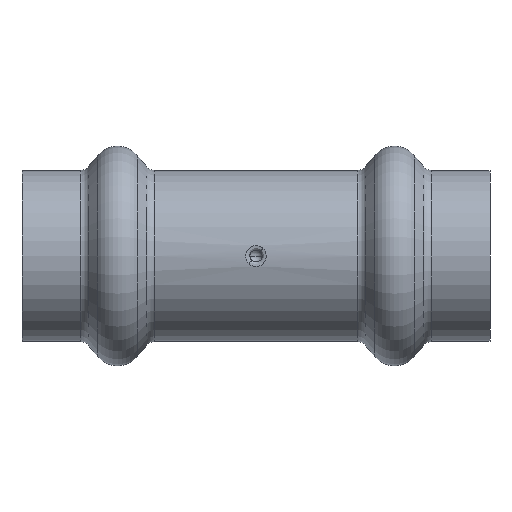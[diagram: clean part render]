
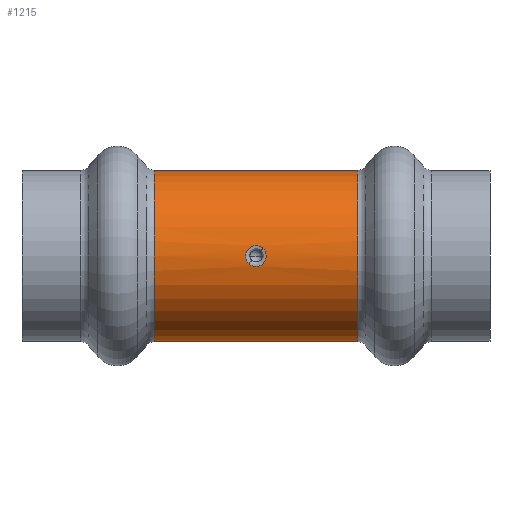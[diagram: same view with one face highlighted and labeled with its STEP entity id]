
A CAD part, front view. The second image highlights one B-rep face of the part: STEP entity #1215.
In plain terms, the highlighted cylindrical face has radius 8.95 mm (diameter 17.9 mm), a partial arc.
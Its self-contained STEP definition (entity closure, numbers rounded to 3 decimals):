
#73 = CARTESIAN_POINT ( 'NONE',  ( 0.88, -8.928, -0.634 ) ) ;
#81 = CARTESIAN_POINT ( 'NONE',  ( 0.691, -8.911, -0.842 ) ) ;
#134 = AXIS2_PLACEMENT_3D ( 'NONE', #1830, #1403, #2165 ) ;
#146 = CARTESIAN_POINT ( 'NONE',  ( -0.182, -8.884, 1.082 ) ) ;
#220 = CARTESIAN_POINT ( 'NONE',  ( 0.73, -8.915, 0.794 ) ) ;
#238 = CARTESIAN_POINT ( 'NONE',  ( -16.83, 0., 8.95 ) ) ;
#246 = CARTESIAN_POINT ( 'NONE',  ( 10.647, 0., 0. ) ) ;
#254 = CARTESIAN_POINT ( 'NONE',  ( 0.575, -8.902, -0.928 ) ) ;
#259 = ORIENTED_EDGE ( 'NONE', *, *, #2125, .F. ) ;
#260 = CARTESIAN_POINT ( 'NONE',  ( 0.32, -8.889, -1.048 ) ) ;
#270 = CARTESIAN_POINT ( 'NONE',  ( 0.18, -8.884, -1.082 ) ) ;
#275 = EDGE_CURVE ( 'NONE', #2179, #1813, #1756, .T. ) ;
#311 = CYLINDRICAL_SURFACE ( 'NONE', #134, 8.95 ) ;
#339 = B_SPLINE_CURVE_WITH_KNOTS ( 'NONE', 3,
 ( #1262, #624, #1248, #1256, #1304, #2092, #489, #2076, #2143, #1831, #146, #606, #635, #528, #1073, #474 ),
 .UNSPECIFIED., .F., .F.,
 ( 4, 2, 2, 2, 2, 2, 2, 4 ),
 ( 0.007, 0.008, 0.008, 0.008, 0.009, 0.009, 0.01, 0.01 ),
 .UNSPECIFIED. ) ;
#346 = EDGE_CURVE ( 'NONE', #1998, #2179, #1931, .T. ) ;
#368 = FACE_BOUND ( 'NONE', #1261, .T. ) ;
#438 = CARTESIAN_POINT ( 'NONE',  ( -0.102, -8.883, -1.092 ) ) ;
#449 = CARTESIAN_POINT ( 'NONE',  ( 1.072, -8.951, -0.102 ) ) ;
#474 = CARTESIAN_POINT ( 'NONE',  ( 0.73, -8.915, 0.794 ) ) ;
#489 = CARTESIAN_POINT ( 'NONE',  ( -0.881, -8.928, 0.632 ) ) ;
#528 = CARTESIAN_POINT ( 'NONE',  ( 0.507, -8.898, 0.969 ) ) ;
#556 = VECTOR ( 'NONE', #1125, 1000. ) ;
#586 = CARTESIAN_POINT ( 'NONE',  ( 0.73, -8.915, 0.794 ) ) ;
#606 = CARTESIAN_POINT ( 'NONE',  ( 0.102, -8.883, 1.092 ) ) ;
#624 = CARTESIAN_POINT ( 'NONE',  ( -0.935, -8.932, -0.599 ) ) ;
#628 = CARTESIAN_POINT ( 'NONE',  ( -0.244, -8.886, -1.069 ) ) ;
#635 = CARTESIAN_POINT ( 'NONE',  ( 0.243, -8.886, 1.069 ) ) ;
#639 = CARTESIAN_POINT ( 'NONE',  ( 1.062, -8.949, 0.182 ) ) ;
#685 = CIRCLE ( 'NONE', #1288, 8.95 ) ;
#727 = DIRECTION ( 'NONE',  ( -1., 0., 0. ) ) ;
#794 = CARTESIAN_POINT ( 'NONE',  ( -0.508, -8.898, -0.968 ) ) ;
#805 = CARTESIAN_POINT ( 'NONE',  ( -0.628, -8.906, -0.892 ) ) ;
#981 = CARTESIAN_POINT ( 'NONE',  ( -0.73, -8.915, -0.794 ) ) ;
#992 = VERTEX_POINT ( 'NONE', #1407 ) ;
#1036 = EDGE_CURVE ( 'NONE', #992, #1383, #339, .T. ) ;
#1073 = CARTESIAN_POINT ( 'NONE',  ( 0.628, -8.906, 0.892 ) ) ;
#1125 = DIRECTION ( 'NONE',  ( -1., 0., 0. ) ) ;
#1129 = CARTESIAN_POINT ( 'NONE',  ( 0.915, -8.932, 0.579 ) ) ;
#1215 = ADVANCED_FACE ( 'NONE', ( #1721, #368 ), #311, .T. ) ;
#1224 = DIRECTION ( 'NONE',  ( 0., 0., -1. ) ) ;
#1236 = DIRECTION ( 'NONE',  ( 1., 0., 0. ) ) ;
#1242 = ORIENTED_EDGE ( 'NONE', *, *, #1036, .T. ) ;
#1245 = CARTESIAN_POINT ( 'NONE',  ( -10.647, 0., 0. ) ) ;
#1248 = CARTESIAN_POINT ( 'NONE',  ( -1.057, -8.949, -0.322 ) ) ;
#1256 = CARTESIAN_POINT ( 'NONE',  ( -1.072, -8.951, 0.101 ) ) ;
#1261 = EDGE_LOOP ( 'NONE', ( #1242, #1989 ) ) ;
#1262 = CARTESIAN_POINT ( 'NONE',  ( -0.73, -8.915, -0.794 ) ) ;
#1288 = AXIS2_PLACEMENT_3D ( 'NONE', #1245, #1236, #1224 ) ;
#1299 = CARTESIAN_POINT ( 'NONE',  ( 0.832, -8.923, 0.697 ) ) ;
#1300 = ORIENTED_EDGE ( 'NONE', *, *, #275, .T. ) ;
#1304 = CARTESIAN_POINT ( 'NONE',  ( -1.05, -8.948, 0.244 ) ) ;
#1323 = VECTOR ( 'NONE', #727, 1000. ) ;
#1375 = VERTEX_POINT ( 'NONE', #2065 ) ;
#1381 = EDGE_CURVE ( 'NONE', #1813, #1375, #685, .T. ) ;
#1383 = VERTEX_POINT ( 'NONE', #220 ) ;
#1403 = DIRECTION ( 'NONE',  ( -1., 0., 0. ) ) ;
#1407 = CARTESIAN_POINT ( 'NONE',  ( -0.73, -8.915, -0.794 ) ) ;
#1473 = LINE ( 'NONE', #1503, #556 ) ;
#1503 = CARTESIAN_POINT ( 'NONE',  ( -16.83, 0., -8.95 ) ) ;
#1563 = DIRECTION ( 'NONE',  ( 0., 0., 1. ) ) ;
#1573 = ORIENTED_EDGE ( 'NONE', *, *, #346, .T. ) ;
#1629 = CARTESIAN_POINT ( 'NONE',  ( 1.03, -8.945, 0.321 ) ) ;
#1642 = EDGE_LOOP ( 'NONE', ( #259, #1573, #1300, #2157 ) ) ;
#1687 = CARTESIAN_POINT ( 'NONE',  ( -10.647, 0., 8.95 ) ) ;
#1721 = FACE_OUTER_BOUND ( 'NONE', #1642, .T. ) ;
#1756 = LINE ( 'NONE', #238, #1323 ) ;
#1802 = AXIS2_PLACEMENT_3D ( 'NONE', #246, #1882, #1563 ) ;
#1813 = VERTEX_POINT ( 'NONE', #1687 ) ;
#1830 = CARTESIAN_POINT ( 'NONE',  ( -16.83, 0., 0. ) ) ;
#1831 = CARTESIAN_POINT ( 'NONE',  ( -0.321, -8.889, 1.048 ) ) ;
#1882 = DIRECTION ( 'NONE',  ( -1., 0., 0. ) ) ;
#1900 = EDGE_CURVE ( 'NONE', #1383, #992, #1988, .T. ) ;
#1931 = CIRCLE ( 'NONE', #1802, 8.95 ) ;
#1932 = CARTESIAN_POINT ( 'NONE',  ( 1.05, -8.948, -0.244 ) ) ;
#1988 = B_SPLINE_CURVE_WITH_KNOTS ( 'NONE', 3,
 ( #586, #1299, #1129, #1629, #639, #449, #1932, #2154, #73, #81, #254, #260, #270, #438, #628, #794, #805, #981 ),
 .UNSPECIFIED., .F., .F.,
 ( 4, 2, 2, 2, 2, 2, 2, 2, 4 ),
 ( 0.003, 0.004, 0.004, 0.005, 0.005, 0.005, 0.006, 0.006, 0.007 ),
 .UNSPECIFIED. ) ;
#1989 = ORIENTED_EDGE ( 'NONE', *, *, #1900, .T. ) ;
#1998 = VERTEX_POINT ( 'NONE', #2021 ) ;
#2021 = CARTESIAN_POINT ( 'NONE',  ( 10.647, 0., -8.95 ) ) ;
#2065 = CARTESIAN_POINT ( 'NONE',  ( -10.647, 0., -8.95 ) ) ;
#2076 = CARTESIAN_POINT ( 'NONE',  ( -0.692, -8.911, 0.841 ) ) ;
#2092 = CARTESIAN_POINT ( 'NONE',  ( -0.954, -8.937, 0.508 ) ) ;
#2094 = CARTESIAN_POINT ( 'NONE',  ( 10.647, 0., 8.95 ) ) ;
#2125 = EDGE_CURVE ( 'NONE', #1998, #1375, #1473, .T. ) ;
#2143 = CARTESIAN_POINT ( 'NONE',  ( -0.577, -8.902, 0.927 ) ) ;
#2154 = CARTESIAN_POINT ( 'NONE',  ( 0.954, -8.936, -0.51 ) ) ;
#2157 = ORIENTED_EDGE ( 'NONE', *, *, #1381, .T. ) ;
#2165 = DIRECTION ( 'NONE',  ( 0., 0., 1. ) ) ;
#2179 = VERTEX_POINT ( 'NONE', #2094 ) ;
